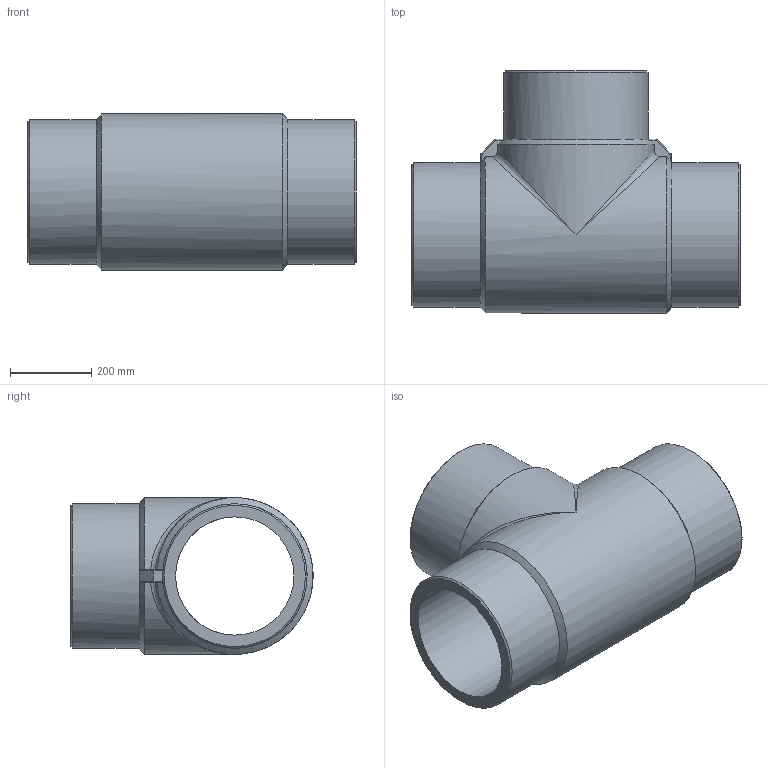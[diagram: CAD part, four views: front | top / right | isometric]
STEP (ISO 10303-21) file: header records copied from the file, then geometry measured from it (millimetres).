
FILE_DESCRIPTION(/* description */ ('Unknown'),/* implementation_level */ '2;1');
FILE_NAME(/* name */ 'TP355C',/* time_stamp */ '2022-06-06T15:53:21+02:00',/* author */ ('Unknown'),/* organization */ ('Unknown'),/* preprocessor_version */ 'ST-DEVELOPER v18.102',/* originating_system */ 'Solid Edge',/* authorisation */ 'Unknown');
FILE_SCHEMA (('AUTOMOTIVE_DESIGN {1 0 10303 214 3 1 1}'));
Length unit declared in the file: millimetre
Products named in the file (1): TP355C
Bounding box: 806 x 594.93 x 385 mm (x, y, z)
Volume: 40661198.4 mm3; surface area: 2167459.3 mm2
Topology: 1 solids, 1 shells, 57 faces, 150 edges, 82 vertices
Faces by surface type: cylinder 24, plane 13, cone 8, sphere 8, bspline 4
Full cylindrical faces by diameter (mm): 290.6 x2, 355 x3
Entity records: 1732 total; most frequent: CARTESIAN_POINT 495, DIRECTION 256, ORIENTED_EDGE 238, EDGE_CURVE 119, AXIS2_PLACEMENT_3D 108, VERTEX_POINT 75, EDGE_LOOP 70, FACE_BOUND 70
